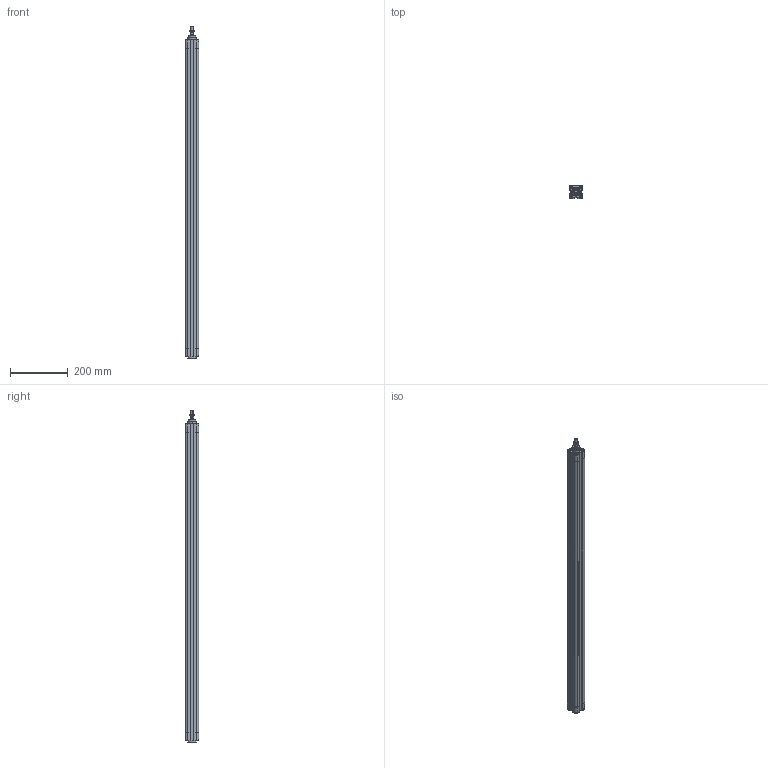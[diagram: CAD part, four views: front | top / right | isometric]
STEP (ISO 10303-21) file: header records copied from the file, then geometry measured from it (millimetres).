
FILE_DESCRIPTION((''),'2;1');
FILE_NAME('F:\Lib-3d\1380\CIL\1380_32_1000_01.stp','2004-01-07T16:03:06',('maffial1'),(''),'Autodesk Inventor 8','Autodesk Inventor 8','');
FILE_SCHEMA(('AUTOMOTIVE_DESIGN { 1 0 10303 214 1 1 1 1 }'));
Length unit declared in the file: millimetre
Products named in the file (4): 1380_32_1000_01; CPP01_32_1000; CPP02_32_1000; 1320_32_18F
Assembly tree (3 placements, depth 2):
  1380_32_1000_01
    CPP01_32_1000
    CPP02_32_1000
    1320_32_18F
Bounding box: 46 x 46 x 1146 mm (x, y, z)
Volume: 2049043.5 mm3; surface area: 332973.8 mm2
Topology: 3 solids, 3 shells, 244 faces, 570 edges, 356 vertices
Faces by surface type: plane 83, bspline 67, cylinder 58, cone 34, torus 2
Entity records: 7668 total; most frequent: CARTESIAN_POINT 2166, DIRECTION 1136, ORIENTED_EDGE 1108, EDGE_CURVE 554, AXIS2_PLACEMENT_3D 422, VERTEX_POINT 356, VECTOR 292, LINE 292
